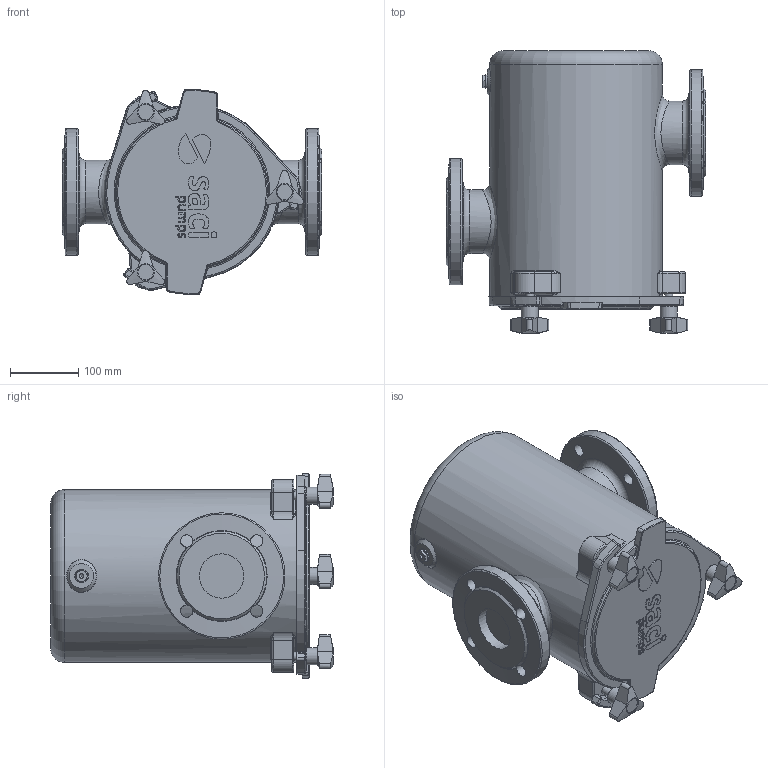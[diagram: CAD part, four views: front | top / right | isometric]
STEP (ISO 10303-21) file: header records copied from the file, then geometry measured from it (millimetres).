
FILE_DESCRIPTION(/* description */ ('Unknown'),/* implementation_level */ '2;1');
FILE_NAME(/* name */ 'PREFILTRO F 65-65 COMPLETO',/* time_stamp */ '2020-11-30T10:30:09+01:00',/* author */ ('Unknown'),/* organization */ ('Unknown'),/* preprocessor_version */ 'ST-DEVELOPER v16.7',/* originating_system */ 'Solid Edge',/* authorisation */ 'Unknown');
FILE_SCHEMA (('AUTOMOTIVE_DESIGN {1 0 10303 214 3 1 1}'));
Length unit declared in the file: millimetre
Products named in the file (1): PREFILTRO F  65-65 COMPLETO
Bounding box: 380 x 413 x 299.77 mm (x, y, z)
Volume: 20874320.5 mm3; surface area: 605727 mm2
Topology: 2 solids, 2 shells, 480 faces, 1195 edges, 734 vertices
Faces by surface type: bspline 134, plane 122, cylinder 110, torus 61, cone 53
Full cylindrical faces by diameter (mm): 10.106 x6, 12 x3, 18 x8, 20 x1, 22.5 x3, 25 x3, 65 x2, 93 x2, 185 x2, 253 x1
Entity records: 24015 total; most frequent: CARTESIAN_POINT 10890, ORIENTED_EDGE 2140, DIRECTION 1679, EDGE_CURVE 1070, AXIS2_PLACEMENT_3D 701, VERTEX_POINT 695, FACE_BOUND 603, EDGE_LOOP 601
